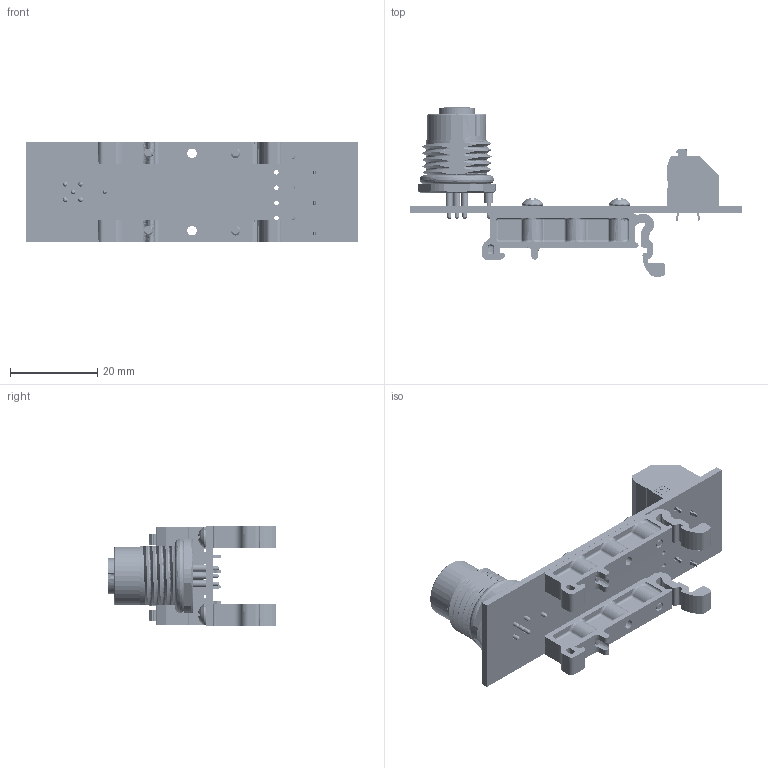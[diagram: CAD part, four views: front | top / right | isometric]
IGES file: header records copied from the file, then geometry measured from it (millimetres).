
Start section: SolidWorks IGES file using analytic representation for surfaces
Global section: file name: W:\end-user\products\brk\brkgm12\brkgm12a-5fs\3dmodel\rev_a\render\brkgm12a-5fs-din_rev_a.igs; native system: SolidWorks 2018; preprocessor: SolidWorks 2018; author: leviroy; date: 240624.095105; units: inch
Bounding box: 76.2 x 38.77 x 22.86 mm (x, y, z)
Surface area: 12359.3 mm2 (no closed solid volume)
Topology: 0 solids, 0 shells, 3036 faces, 28133 edges, 28111 vertices
Faces by surface type: bspline 2223, revolution 813
